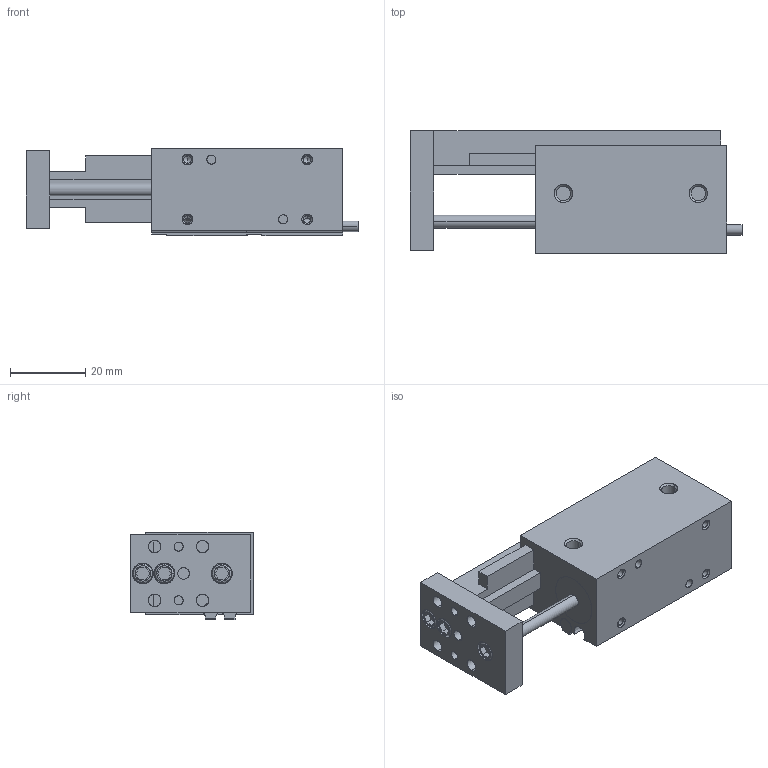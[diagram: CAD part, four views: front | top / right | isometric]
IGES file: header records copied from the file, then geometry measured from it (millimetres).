
Start section: SolidWorks IGES file using analytic representation for surfaces
Global section: file name: C:\Users\jmkuhnes\Pictures\My Transfers\AGMS\AGMS-1-2\AGMS-1-2 EXTENDED in MM.IGS; native system: SolidWorks 2013; preprocessor: SolidWorks 2013; author: jmkuhnes; date: 141106.090356; units: millimetre
Bounding box: 88.15 x 32.51 x 23.2 mm (x, y, z)
Surface area: 18497 mm2 (no closed solid volume)
Topology: 0 solids, 0 shells, 293 faces, 4306 edges, 4294 vertices
Faces by surface type: revolution 158, bspline 135
